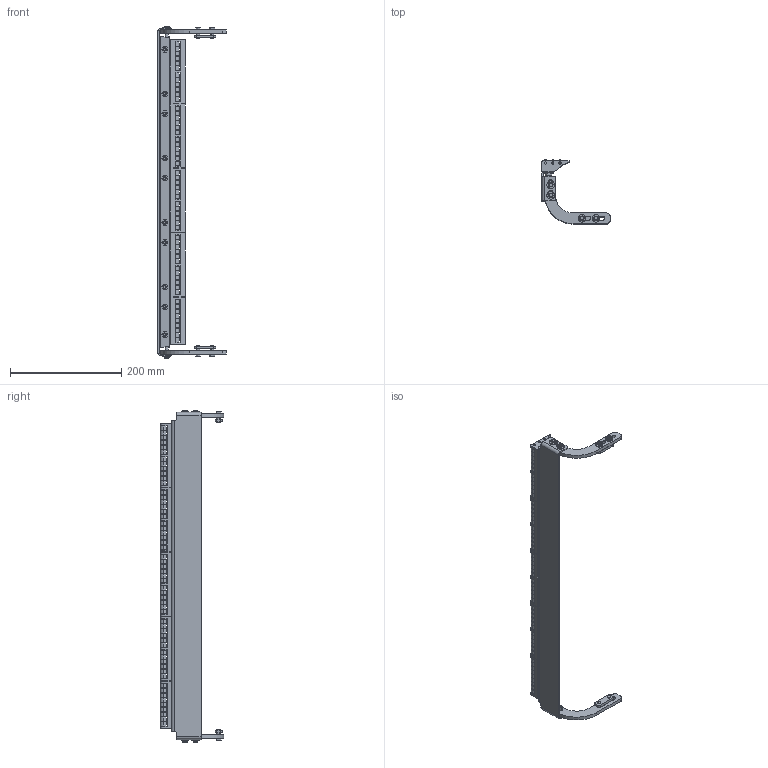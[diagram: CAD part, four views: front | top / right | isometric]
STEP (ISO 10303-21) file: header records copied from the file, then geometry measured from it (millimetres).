
FILE_DESCRIPTION((''),'2;1');
FILE_NAME('518355-22_ASM','2023-03-24T',('jenni.wallner'),(''),'PRO/ENGINEER BY PARAMETRIC TECHNOLOGY CORPORATION, 2012420','PRO/ENGINEER BY PARAMETRIC TECHNOLOGY CORPORATION, 2012420','');
FILE_SCHEMA(('CONFIG_CONTROL_DESIGN'));
Length unit declared in the file: inch
Products named in the file (75): 532387; 960616MSSF; 807-1830_18-1-SOLID1; 807-1830_9-1-SOLID1; 807-1830_3-1-SOLID1; 807-1830_26-1-SOLID1; 807-1830_24-1-SOLID1; 807-1830_27-1-SOLID1; 807-1830_6-1-SOLID1; 807-1830_22-1-SOLID1; 807-1830_5-1-SOLID1; 807-1830_7-1-SOLID1; 807-1830_33-1-SOLID1; 807-1830_11-1-SOLID1; 807-1830_1-1-SOLID1; 807-1830_23-1-SOLID1; 807-1830_32-1-SOLID1; 807-1830_30-1-SOLID1; 807-1830_29-1-SOLID1; 807-1830_8-1-SOLID1; 807-1830_19-1-SOLID1; 807-1830_31-1-SOLID1; 807-1830_35-1-SOLID1; 807-1830_10-1-SOLID1; 807-1830_28-1-SOLID1; 807-1830_16-1-SOLID1; 807-1830_13-1-SOLID1; 807-1830_12-1-SOLID1; 807-1830_25-1-SOLID1; 807-1830_20-1-SOLID1; 807-1830_34-1-SOLID1; 807-1830_17-1-SOLID1; 807-1830-1-SOLID1; 807-1830_15-1-SOLID1; 807-1830_14-1-SOLID1; 807-1830_4-1-SOLID1; 807-1830_21-1-SOLID1; 807-1830_36-1-SOLID1; 807-1830_2-1-SOLID1; 807-1830_ASM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
Assembly tree (86 placements, depth 4):
  518355-22_ASM
    ASM0001_ASM
      532387  x2
      960616MSSF  x8
      807-1830_ASM  x4
        807-1830_18-1-SOLID1
        807-1830_9-1-SOLID1
        807-1830_3-1-SOLID1
        807-1830_26-1-SOLID1
        807-1830_24-1-SOLID1
        807-1830_27-1-SOLID1
        807-1830_6-1-SOLID1
        807-1830_22-1-SOLID1
        807-1830_5-1-SOLID1
        807-1830_7-1-SOLID1
        807-1830_33-1-SOLID1
        807-1830_11-1-SOLID1
        807-1830_1-1-SOLID1
        807-1830_23-1-SOLID1
        807-1830_32-1-SOLID1
        807-1830_30-1-SOLID1
        807-1830_29-1-SOLID1
        807-1830_8-1-SOLID1
        807-1830_19-1-SOLID1
        807-1830_31-1-SOLID1
        807-1830_35-1-SOLID1
        807-1830_10-1-SOLID1
        807-1830_28-1-SOLID1
        807-1830_16-1-SOLID1
        807-1830_13-1-SOLID1
        807-1830_12-1-SOLID1
        807-1830_25-1-SOLID1
        807-1830_20-1-SOLID1
        807-1830_34-1-SOLID1
        807-1830_17-1-SOLID1
        807-1830-1-SOLID1
        807-1830_15-1-SOLID1
        807-1830_14-1-SOLID1
        807-1830_4-1-SOLID1
        807-1830_21-1-SOLID1
        807-1830_36-1-SOLID1
        807-1830_2-1-SOLID1
      520309  x2
      807-1829_ASM
        807-1829_16-1-SOLID1
        807-1829_7-1-SOLID1
        CUT-EXTRUDE1_1_
        807-1829_15-1-SOLID1
        807-1829_11-1-SOLID1
        807-1829_8-1-SOLID1
        807-1829_13-1-SOLID1
        CUT-EXTRUDE1_2_
        807-1829_18-1-SOLID1
        807-1829_10-1-SOLID1
        807-1829-1-SOLID1
        807-1829_2-1-SOLID1
        807-1829_27-1-SOLID1
        807-1829_9-1-SOLID1
        807-1829_24-1-SOLID1
        807-1829_19-1-SOLID1
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Bounding box: 122.82 x 114.68 x 597.32 mm (x, y, z)
Volume: 445905.3 mm3; surface area: 272200.3 mm2
Topology: 191 solids, 191 shells, 1331 faces, 2661 edges, 1755 vertices
Faces by surface type: plane 664, cylinder 615, cone 52
Entity records: 16501 total; most frequent: DIRECTION 3172, CARTESIAN_POINT 2643, ORIENTED_EDGE 2190, AXIS2_PLACEMENT_3D 1313, EDGE_CURVE 1095, VERTEX_POINT 723, EDGE_LOOP 608, VECTOR 546
